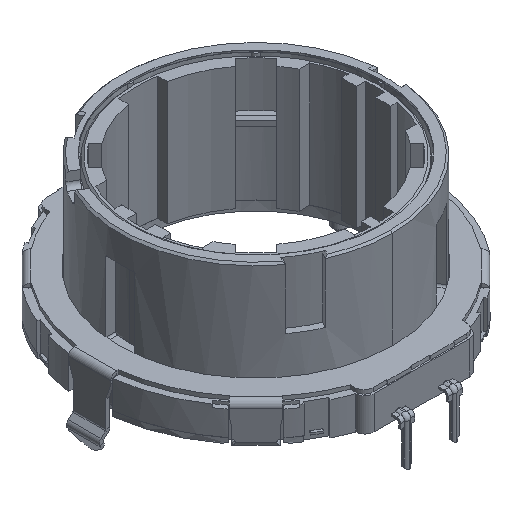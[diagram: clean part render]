
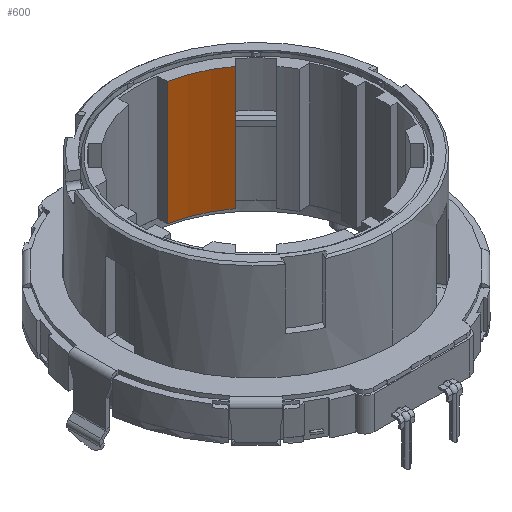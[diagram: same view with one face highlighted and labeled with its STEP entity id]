
A CAD part, isometric view. The second image highlights one B-rep face of the part: STEP entity #600.
In plain terms, the highlighted cylindrical face has radius 11.6 mm (diameter 23.2 mm), a partial arc.
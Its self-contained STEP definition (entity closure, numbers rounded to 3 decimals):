
#600 = ADVANCED_FACE ( 'NONE', ( #22418 ), #33841, .F. ) ;
#1304 = CARTESIAN_POINT ( 'NONE',  ( 2.062, 11.415, -0.275 ) ) ;
#3746 = EDGE_CURVE ( 'NONE', #15428, #28568, #19109, .T. ) ;
#3993 = VECTOR ( 'NONE', #12795, 1000. ) ;
#5681 = LINE ( 'NONE', #16751, #12308 ) ;
#8386 = AXIS2_PLACEMENT_3D ( 'NONE', #13277, #32923, #16121 ) ;
#8622 = DIRECTION ( 'NONE',  ( 0., 0., 1. ) ) ;
#9994 = CARTESIAN_POINT ( 'NONE',  ( 7.033, 9.225, -20.8 ) ) ;
#10999 = CARTESIAN_POINT ( 'NONE',  ( 2.062, 11.415, -13.275 ) ) ;
#12308 = VECTOR ( 'NONE', #8622, 1000. ) ;
#12536 = DIRECTION ( 'NONE',  ( 1., 0., 0. ) ) ;
#12795 = DIRECTION ( 'NONE',  ( 0., 0., 1. ) ) ;
#13135 = EDGE_CURVE ( 'NONE', #14125, #15428, #5681, .T. ) ;
#13277 = CARTESIAN_POINT ( 'NONE',  ( 0., 0., -13.275 ) ) ;
#13543 = DIRECTION ( 'NONE',  ( 0., 0., 1. ) ) ;
#13912 = CARTESIAN_POINT ( 'NONE',  ( 0., 0., -20.8 ) ) ;
#14125 = VERTEX_POINT ( 'NONE', #10999 ) ;
#14828 = EDGE_LOOP ( 'NONE', ( #16158, #19960, #16447, #25915 ) ) ;
#15428 = VERTEX_POINT ( 'NONE', #1304 ) ;
#15836 = DIRECTION ( 'NONE',  ( 1., 0., 0. ) ) ;
#15954 = DIRECTION ( 'NONE',  ( 0., 0., -1. ) ) ;
#16085 = CARTESIAN_POINT ( 'NONE',  ( 0., 0., -0.275 ) ) ;
#16121 = DIRECTION ( 'NONE',  ( -1., 0., 0. ) ) ;
#16158 = ORIENTED_EDGE ( 'NONE', *, *, #13135, .F. ) ;
#16447 = ORIENTED_EDGE ( 'NONE', *, *, #35354, .T. ) ;
#16751 = CARTESIAN_POINT ( 'NONE',  ( 2.062, 11.415, -20.8 ) ) ;
#16752 = VERTEX_POINT ( 'NONE', #16861 ) ;
#16861 = CARTESIAN_POINT ( 'NONE',  ( 7.033, 9.225, -13.275 ) ) ;
#19109 = CIRCLE ( 'NONE', #36206, 11.6 ) ;
#19960 = ORIENTED_EDGE ( 'NONE', *, *, #33343, .T. ) ;
#20278 = CIRCLE ( 'NONE', #8386, 11.6 ) ;
#21099 = AXIS2_PLACEMENT_3D ( 'NONE', #13912, #13543, #12536 ) ;
#22418 = FACE_OUTER_BOUND ( 'NONE', #14828, .T. ) ;
#25915 = ORIENTED_EDGE ( 'NONE', *, *, #3746, .F. ) ;
#28568 = VERTEX_POINT ( 'NONE', #34239 ) ;
#32923 = DIRECTION ( 'NONE',  ( 0., 0., -1. ) ) ;
#33014 = LINE ( 'NONE', #9994, #3993 ) ;
#33343 = EDGE_CURVE ( 'NONE', #14125, #16752, #20278, .T. ) ;
#33841 = CYLINDRICAL_SURFACE ( 'NONE', #21099, 11.6 ) ;
#34239 = CARTESIAN_POINT ( 'NONE',  ( 7.033, 9.225, -0.275 ) ) ;
#35354 = EDGE_CURVE ( 'NONE', #16752, #28568, #33014, .T. ) ;
#36206 = AXIS2_PLACEMENT_3D ( 'NONE', #16085, #15954, #15836 ) ;
